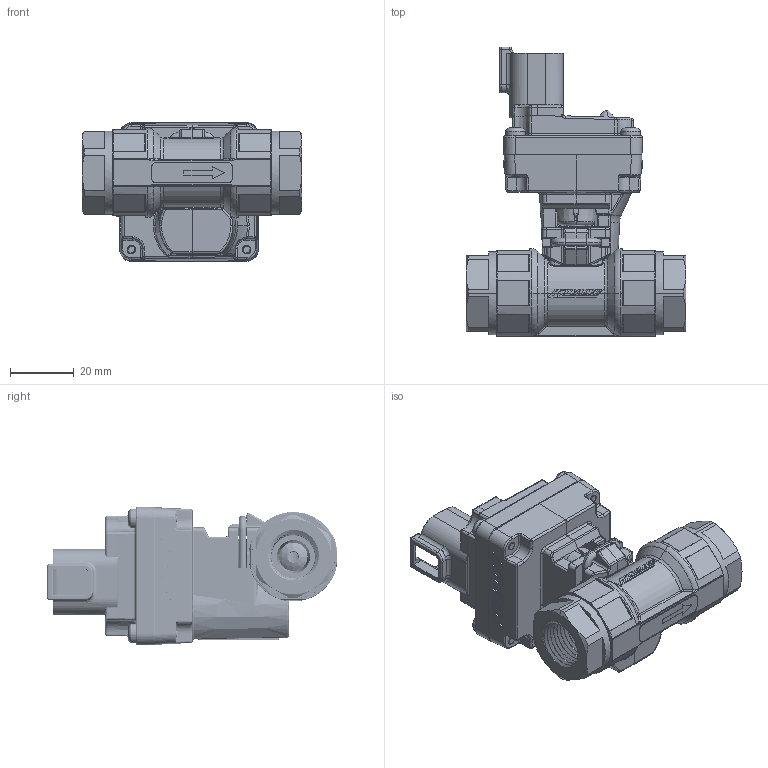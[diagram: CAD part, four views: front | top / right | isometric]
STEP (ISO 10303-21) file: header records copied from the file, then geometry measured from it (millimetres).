
FILE_DESCRIPTION (( 'STEP AP203' ), '1' );
FILE_NAME ('S8C28-1CEBS-D01.STEP', '2025-05-13T19:50:00', ( '' ), ( '' ), 'SwSTEP 2.0', 'SolidWorks 2021', '' );
FILE_SCHEMA (( 'CONFIG_CONTROL_DESIGN' ));
Products named in the file (1): S8C28-1CEBS-D01
Bounding box: 68.78 x 90.71 x 43.37 mm (x, y, z)
Surface area: 49655.9 mm2 (no closed solid volume)
Topology: 0 solids, 31 shells, 3480 faces, 8570 edges, 5081 vertices
Faces by surface type: cylinder 1201, plane 692, bspline 677, torus 547, cone 216, sphere 147
Entity records: 139460 total; most frequent: CARTESIAN_POINT 64329, ORIENTED_EDGE 16764, DIRECTION 14826, EDGE_CURVE 8390, AXIS2_PLACEMENT_3D 5962, VERTEX_POINT 5033, EDGE_LOOP 3611, FACE_OUTER_BOUND 3480
